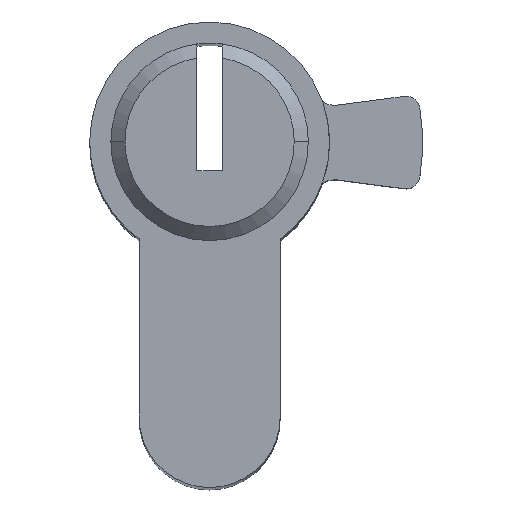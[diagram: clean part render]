
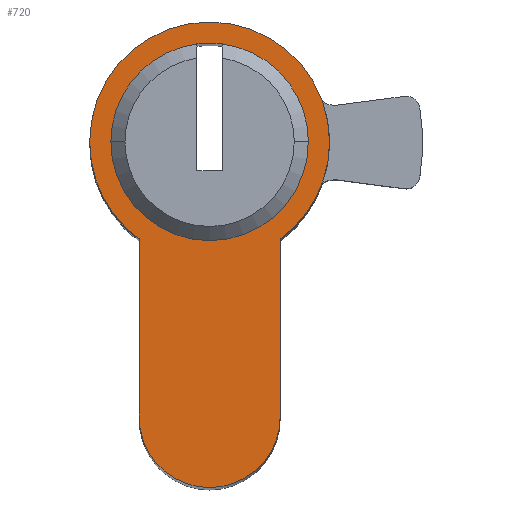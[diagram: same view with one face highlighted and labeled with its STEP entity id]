
A CAD part, top view. The second image highlights one B-rep face of the part: STEP entity #720.
In plain terms, the highlighted planar face has unit normal (0, 0, 1).
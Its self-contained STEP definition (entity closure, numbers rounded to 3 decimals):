
#11 = VERTEX_POINT ( 'NONE', #601 ) ;
#31 = ORIENTED_EDGE ( 'NONE', *, *, #638, .T. ) ;
#33 = CARTESIAN_POINT ( 'NONE',  ( 7., 0., 30. ) ) ;
#38 = ORIENTED_EDGE ( 'NONE', *, *, #634, .F. ) ;
#59 = EDGE_LOOP ( 'NONE', ( #988, #402, #630, #1356, #31, #848 ) ) ;
#105 = AXIS2_PLACEMENT_3D ( 'NONE', #1245, #1398, #185 ) ;
#131 = AXIS2_PLACEMENT_3D ( 'NONE', #1581, #771, #1464 ) ;
#134 = VERTEX_POINT ( 'NONE', #231 ) ;
#138 = CARTESIAN_POINT ( 'NONE',  ( 0., 0., 30. ) ) ;
#154 = DIRECTION ( 'NONE',  ( 1., 0., 0. ) ) ;
#165 = AXIS2_PLACEMENT_3D ( 'NONE', #285, #686, #319 ) ;
#167 = EDGE_CURVE ( 'NONE', #11, #134, #393, .T. ) ;
#185 = DIRECTION ( 'NONE',  ( 1., 0., 0. ) ) ;
#219 = CARTESIAN_POINT ( 'NONE',  ( -0.9, 6.942, 30. ) ) ;
#223 = AXIS2_PLACEMENT_3D ( 'NONE', #1277, #1577, #1409 ) ;
#231 = CARTESIAN_POINT ( 'NONE',  ( -5., -6.874, 30. ) ) ;
#285 = CARTESIAN_POINT ( 'NONE',  ( 0., 0., 30. ) ) ;
#302 = CARTESIAN_POINT ( 'NONE',  ( -5., -19.5, 30. ) ) ;
#319 = DIRECTION ( 'NONE',  ( 1., 0., 0. ) ) ;
#336 = VERTEX_POINT ( 'NONE', #1678 ) ;
#352 = CARTESIAN_POINT ( 'NONE',  ( 0., 0., 30. ) ) ;
#365 = CIRCLE ( 'NONE', #223, 7. ) ;
#393 = CIRCLE ( 'NONE', #131, 8.5 ) ;
#402 = ORIENTED_EDGE ( 'NONE', *, *, #1122, .T. ) ;
#485 = VERTEX_POINT ( 'NONE', #1219 ) ;
#516 = EDGE_CURVE ( 'NONE', #1064, #1131, #954, .T. ) ;
#541 = CARTESIAN_POINT ( 'NONE',  ( 5., -19.5, 30. ) ) ;
#567 = PLANE ( 'NONE',  #105 ) ;
#584 = DIRECTION ( 'NONE',  ( 1., 0., 0. ) ) ;
#597 = LINE ( 'NONE', #1447, #784 ) ;
#601 = CARTESIAN_POINT ( 'NONE',  ( -8.5, 0., 30. ) ) ;
#630 = ORIENTED_EDGE ( 'NONE', *, *, #167, .T. ) ;
#634 = EDGE_CURVE ( 'NONE', #1007, #485, #1443, .T. ) ;
#638 = EDGE_CURVE ( 'NONE', #1218, #1064, #1717, .T. ) ;
#644 = CIRCLE ( 'NONE', #165, 7. ) ;
#653 = CARTESIAN_POINT ( 'NONE',  ( 5., -19.5, 30. ) ) ;
#675 = AXIS2_PLACEMENT_3D ( 'NONE', #1262, #1498, #584 ) ;
#682 = DIRECTION ( 'NONE',  ( 0., 0., 1. ) ) ;
#686 = DIRECTION ( 'NONE',  ( 0., 0., 1. ) ) ;
#691 = EDGE_CURVE ( 'NONE', #485, #1242, #1666, .T. ) ;
#707 = EDGE_CURVE ( 'NONE', #1242, #835, #644, .T. ) ;
#720 = ADVANCED_FACE ( 'NONE', ( #1105, #866 ), #567, .T. ) ;
#730 = DIRECTION ( 'NONE',  ( 0., -1., 0. ) ) ;
#738 = ORIENTED_EDGE ( 'NONE', *, *, #1364, .F. ) ;
#771 = DIRECTION ( 'NONE',  ( 0., 0., 1. ) ) ;
#784 = VECTOR ( 'NONE', #730, 1000. ) ;
#835 = VERTEX_POINT ( 'NONE', #1568 ) ;
#840 = EDGE_LOOP ( 'NONE', ( #738, #1575, #1720, #38 ) ) ;
#846 = DIRECTION ( 'NONE',  ( 1., 0., 0. ) ) ;
#848 = ORIENTED_EDGE ( 'NONE', *, *, #516, .T. ) ;
#866 = FACE_OUTER_BOUND ( 'NONE', #59, .T. ) ;
#881 = VECTOR ( 'NONE', #1469, 1000. ) ;
#882 = DIRECTION ( 'NONE',  ( 0., 0., 1. ) ) ;
#927 = CIRCLE ( 'NONE', #1505, 8.5 ) ;
#954 = LINE ( 'NONE', #541, #881 ) ;
#956 = DIRECTION ( 'NONE',  ( 1., 0., 0. ) ) ;
#979 = CARTESIAN_POINT ( 'NONE',  ( 0., 0., 30. ) ) ;
#988 = ORIENTED_EDGE ( 'NONE', *, *, #1050, .T. ) ;
#1007 = VERTEX_POINT ( 'NONE', #219 ) ;
#1050 = EDGE_CURVE ( 'NONE', #1131, #336, #927, .T. ) ;
#1064 = VERTEX_POINT ( 'NONE', #653 ) ;
#1105 = FACE_BOUND ( 'NONE', #840, .T. ) ;
#1117 = CARTESIAN_POINT ( 'NONE',  ( 0., 0., 30. ) ) ;
#1122 = EDGE_CURVE ( 'NONE', #336, #11, #1261, .T. ) ;
#1131 = VERTEX_POINT ( 'NONE', #1222 ) ;
#1218 = VERTEX_POINT ( 'NONE', #302 ) ;
#1219 = CARTESIAN_POINT ( 'NONE',  ( -7., 0., 30. ) ) ;
#1222 = CARTESIAN_POINT ( 'NONE',  ( 5., -6.874, 30. ) ) ;
#1242 = VERTEX_POINT ( 'NONE', #33 ) ;
#1245 = CARTESIAN_POINT ( 'NONE',  ( 0., 0., 30. ) ) ;
#1261 = CIRCLE ( 'NONE', #1346, 8.5 ) ;
#1262 = CARTESIAN_POINT ( 'NONE',  ( 0., -19.5, 30. ) ) ;
#1277 = CARTESIAN_POINT ( 'NONE',  ( 0., 0., 30. ) ) ;
#1341 = EDGE_CURVE ( 'NONE', #134, #1218, #597, .T. ) ;
#1346 = AXIS2_PLACEMENT_3D ( 'NONE', #138, #682, #956 ) ;
#1356 = ORIENTED_EDGE ( 'NONE', *, *, #1341, .T. ) ;
#1364 = EDGE_CURVE ( 'NONE', #835, #1007, #365, .T. ) ;
#1398 = DIRECTION ( 'NONE',  ( 0., 0., 1. ) ) ;
#1409 = DIRECTION ( 'NONE',  ( 1., 0., 0. ) ) ;
#1410 = AXIS2_PLACEMENT_3D ( 'NONE', #979, #1651, #154 ) ;
#1412 = DIRECTION ( 'NONE',  ( 1., 0., 0. ) ) ;
#1443 = CIRCLE ( 'NONE', #1489, 7. ) ;
#1447 = CARTESIAN_POINT ( 'NONE',  ( -5., -6.874, 30. ) ) ;
#1464 = DIRECTION ( 'NONE',  ( 1., 0., 0. ) ) ;
#1469 = DIRECTION ( 'NONE',  ( 0., 1., 0. ) ) ;
#1489 = AXIS2_PLACEMENT_3D ( 'NONE', #1117, #1519, #846 ) ;
#1498 = DIRECTION ( 'NONE',  ( 0., 0., 1. ) ) ;
#1505 = AXIS2_PLACEMENT_3D ( 'NONE', #352, #882, #1412 ) ;
#1519 = DIRECTION ( 'NONE',  ( 0., 0., 1. ) ) ;
#1568 = CARTESIAN_POINT ( 'NONE',  ( 0.9, 6.942, 30. ) ) ;
#1575 = ORIENTED_EDGE ( 'NONE', *, *, #707, .F. ) ;
#1577 = DIRECTION ( 'NONE',  ( 0., 0., 1. ) ) ;
#1581 = CARTESIAN_POINT ( 'NONE',  ( 0., 0., 30. ) ) ;
#1651 = DIRECTION ( 'NONE',  ( 0., 0., 1. ) ) ;
#1666 = CIRCLE ( 'NONE', #1410, 7. ) ;
#1678 = CARTESIAN_POINT ( 'NONE',  ( 8.5, 0., 30. ) ) ;
#1717 = CIRCLE ( 'NONE', #675, 5. ) ;
#1720 = ORIENTED_EDGE ( 'NONE', *, *, #691, .F. ) ;
